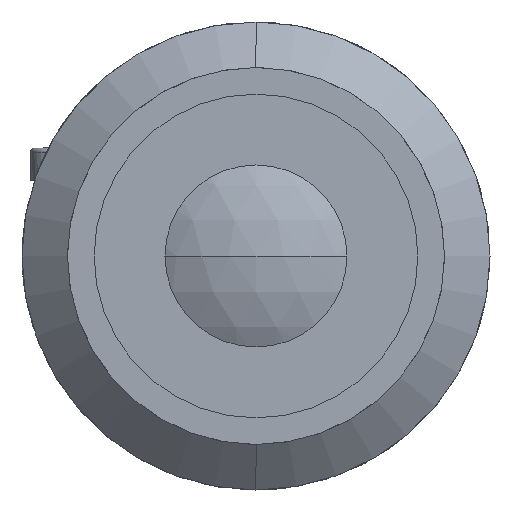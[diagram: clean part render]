
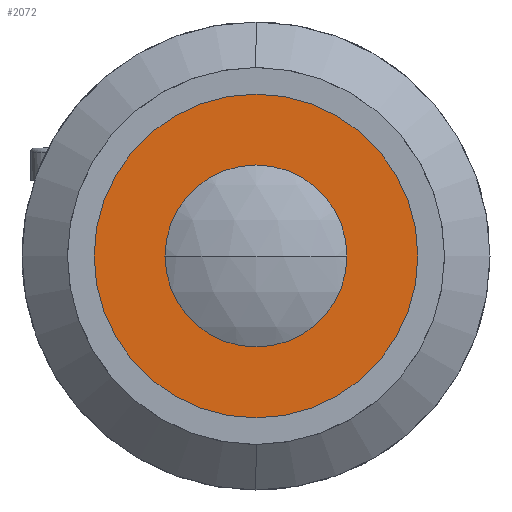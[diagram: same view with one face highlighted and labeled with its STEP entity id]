
A CAD part, left-side view. The second image highlights one B-rep face of the part: STEP entity #2072.
In plain terms, the highlighted planar face has unit normal (-1, 0, 0).
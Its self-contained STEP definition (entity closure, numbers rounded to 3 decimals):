
#70 = CARTESIAN_POINT ( 'NONE',  ( 3.8, 0., -7. ) ) ;
#129 = ORIENTED_EDGE ( 'NONE', *, *, #3209, .F. ) ;
#389 = ORIENTED_EDGE ( 'NONE', *, *, #3403, .T. ) ;
#519 = ORIENTED_EDGE ( 'NONE', *, *, #3351, .T. ) ;
#535 = AXIS2_PLACEMENT_3D ( 'NONE', #2963, #3443, #1893 ) ;
#724 = CARTESIAN_POINT ( 'NONE',  ( 3.8, 0., 0. ) ) ;
#732 = CARTESIAN_POINT ( 'NONE',  ( 3.8, 0., 0. ) ) ;
#760 = DIRECTION ( 'NONE',  ( -1., 0., 0. ) ) ;
#941 = VERTEX_POINT ( 'NONE', #1087 ) ;
#949 = CIRCLE ( 'NONE', #3081, 7. ) ;
#1002 = DIRECTION ( 'NONE',  ( 0., 0., 1. ) ) ;
#1009 = DIRECTION ( 'NONE',  ( 0., 0., 1. ) ) ;
#1047 = DIRECTION ( 'NONE',  ( -1., 0., 0. ) ) ;
#1087 = CARTESIAN_POINT ( 'NONE',  ( 3.8, 0., -13.5 ) ) ;
#1388 = FACE_BOUND ( 'NONE', #2482, .T. ) ;
#1597 = VERTEX_POINT ( 'NONE', #3060 ) ;
#1627 = PLANE ( 'NONE',  #535 ) ;
#1645 = FACE_OUTER_BOUND ( 'NONE', #2032, .T. ) ;
#1671 = VERTEX_POINT ( 'NONE', #70 ) ;
#1805 = CIRCLE ( 'NONE', #2863, 13.5 ) ;
#1888 = VERTEX_POINT ( 'NONE', #3378 ) ;
#1893 = DIRECTION ( 'NONE',  ( 0., 0., -1. ) ) ;
#1992 = CIRCLE ( 'NONE', #2773, 13.5 ) ;
#2032 = EDGE_LOOP ( 'NONE', ( #389, #519 ) ) ;
#2072 = ADVANCED_FACE ( 'NONE', ( #1388, #1645 ), #1627, .F. ) ;
#2399 = CARTESIAN_POINT ( 'NONE',  ( 3.8, 0., 0. ) ) ;
#2482 = EDGE_LOOP ( 'NONE', ( #2821, #129 ) ) ;
#2647 = DIRECTION ( 'NONE',  ( -1., 0., 0. ) ) ;
#2653 = DIRECTION ( 'NONE',  ( -1., 0., 0. ) ) ;
#2679 = DIRECTION ( 'NONE',  ( 0., 0., 1. ) ) ;
#2696 = CARTESIAN_POINT ( 'NONE',  ( 3.8, 0., 0. ) ) ;
#2738 = AXIS2_PLACEMENT_3D ( 'NONE', #2696, #1047, #2955 ) ;
#2773 = AXIS2_PLACEMENT_3D ( 'NONE', #2399, #760, #2679 ) ;
#2821 = ORIENTED_EDGE ( 'NONE', *, *, #3423, .F. ) ;
#2863 = AXIS2_PLACEMENT_3D ( 'NONE', #732, #2653, #1009 ) ;
#2955 = DIRECTION ( 'NONE',  ( 0., 0., 1. ) ) ;
#2963 = CARTESIAN_POINT ( 'NONE',  ( 3.8, 13.5, 0. ) ) ;
#3060 = CARTESIAN_POINT ( 'NONE',  ( 3.8, 0., 13.5 ) ) ;
#3081 = AXIS2_PLACEMENT_3D ( 'NONE', #724, #2647, #1002 ) ;
#3209 = EDGE_CURVE ( 'NONE', #1671, #1888, #949, .T. ) ;
#3308 = CIRCLE ( 'NONE', #2738, 7. ) ;
#3351 = EDGE_CURVE ( 'NONE', #941, #1597, #1805, .T. ) ;
#3378 = CARTESIAN_POINT ( 'NONE',  ( 3.8, 0., 7. ) ) ;
#3403 = EDGE_CURVE ( 'NONE', #1597, #941, #1992, .T. ) ;
#3423 = EDGE_CURVE ( 'NONE', #1888, #1671, #3308, .T. ) ;
#3443 = DIRECTION ( 'NONE',  ( 1., 0., 0. ) ) ;
